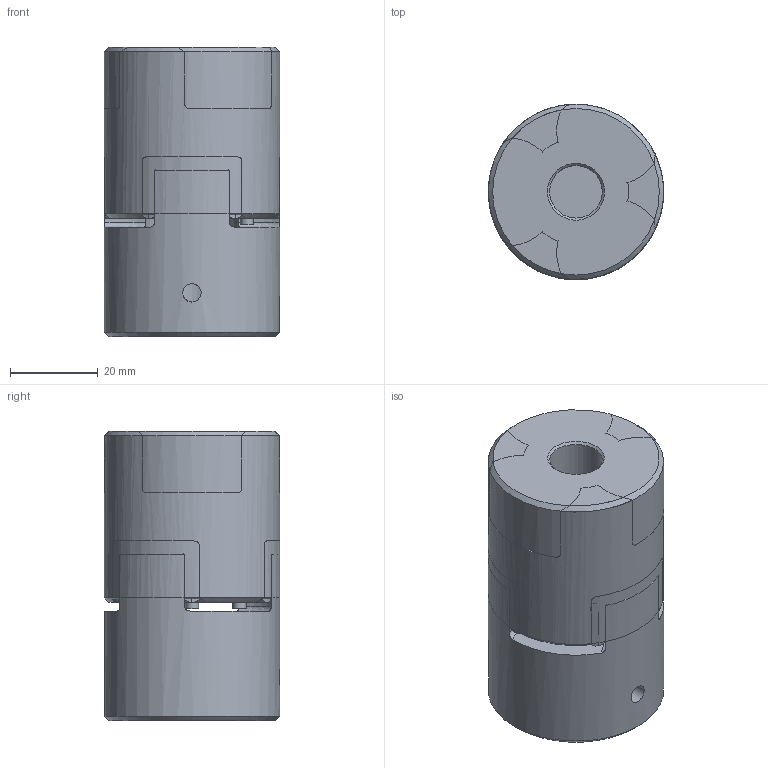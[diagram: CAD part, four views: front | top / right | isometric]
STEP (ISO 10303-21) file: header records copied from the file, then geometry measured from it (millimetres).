
FILE_DESCRIPTION( ( 'Unknown' ), '1' );
FILE_NAME( 'C:/Dokumente und Einstellungen/Sven/Desktop/homepage/cad - homepage/KBE1/KBE 1 - 19.stp', 'Unknown', ( 'Unknown' ), ( 'Unknown' ), 'XStep 1.0', 'Unknown', ' ' );
FILE_SCHEMA( ( 'automotive_design' ) );
Length unit declared in the file: millimetre
Products named in the file (3): Assem1; Zahnkranz_19_0; KBE 1 - 19_Nabe_0
Bounding box: 40 x 40 x 66 mm (x, y, z)
Surface area: 32050 mm2
Topology: 5 solids, 5 shells, 278 faces, 706 edges, 451 vertices
Faces by surface type: cone 97, cylinder 88, plane 68, torus 25
Full cylindrical faces by diameter (mm): 3 x12, 4.2 x3, 12 x3, 18 x4, 40 x3
Entity records: 4064 total; most frequent: CARTESIAN_POINT 973, DIRECTION 574, ORIENTED_EDGE 544, EDGE_CURVE 272, AXIS2_PLACEMENT_3D 254, VERTEX_POINT 185, EDGE_LOOP 149, FACE_OUTER_BOUND 132
